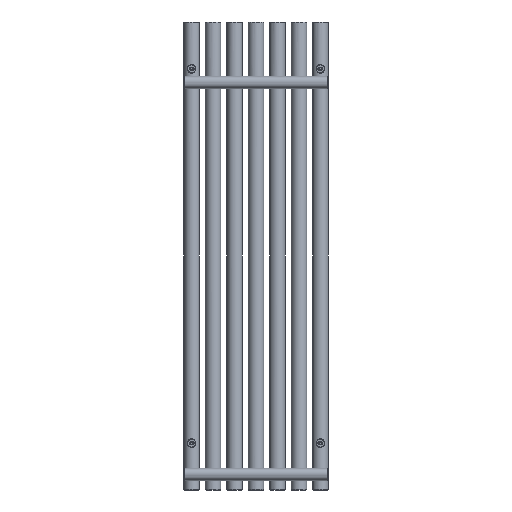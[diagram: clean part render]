
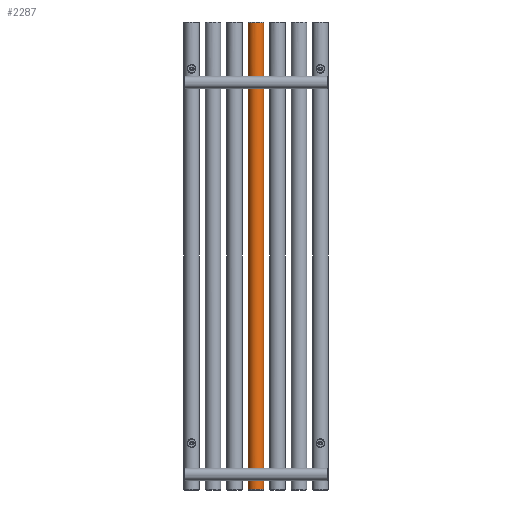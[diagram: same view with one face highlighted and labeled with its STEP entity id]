
A CAD part, front view. The second image highlights one B-rep face of the part: STEP entity #2287.
In plain terms, the highlighted cylindrical face has radius 20 mm (diameter 40 mm), a full revolution.
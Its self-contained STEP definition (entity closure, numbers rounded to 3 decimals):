
#181=FACE_BOUND('',#569,.T.);
#182=FACE_BOUND('',#570,.T.);
#216=LINE('',#4522,#292);
#292=VECTOR('',#2854,20.);
#368=CYLINDRICAL_SURFACE('',#2494,20.);
#405=FACE_OUTER_BOUND('',#568,.T.);
#568=EDGE_LOOP('',(#1619,#1620,#1621,#1622,#1623));
#569=EDGE_LOOP('',(#1624));
#570=EDGE_LOOP('',(#1625));
#754=B_SPLINE_CURVE_WITH_KNOTS('',3,(#4496,#4497,#4498,#4499,#4500,#4501,
#4502,#4503,#4504,#4505,#4506,#4507,#4508,#4509,#4510,#4511,#4512,#4513,
#4514,#4515,#4516),.UNSPECIFIED.,.T.,.F.,(4,1,1,1,1,1,1,1,1,1,1,1,1,1,1,
1,1,1,4),(-5.132,-4.765,-4.399,-4.154,
-3.91,-3.788,-3.666,-3.421,
-3.177,-2.933,-2.688,-2.199,
-1.955,-1.711,-1.466,-1.1,
-0.733,-0.367,0.),.UNSPECIFIED.);
#755=B_SPLINE_CURVE_WITH_KNOTS('',3,(#4526,#4527,#4528,#4529,#4530,#4531,
#4532,#4533,#4534,#4535,#4536,#4537,#4538,#4539,#4540,#4541,#4542,#4543,
#4544,#4545),.UNSPECIFIED.,.T.,.F.,(4,1,1,1,1,1,1,1,1,1,1,1,1,1,1,1,1,4),
(-5.132,-4.765,-4.399,-3.91,
-3.788,-3.666,-3.421,-3.177,
-2.933,-2.444,-2.199,-1.955,-1.711,
-1.466,-1.1,-0.733,-0.367,
0.),.UNSPECIFIED.);
#819=CIRCLE('',#2495,20.);
#820=CIRCLE('',#2496,20.);
#821=CIRCLE('',#2497,20.);
#1011=VERTEX_POINT('',#4494);
#1012=VERTEX_POINT('',#4518);
#1013=VERTEX_POINT('',#4519);
#1014=VERTEX_POINT('',#4521);
#1015=VERTEX_POINT('',#4525);
#1255=EDGE_CURVE('',#1011,#1011,#754,.T.);
#1256=EDGE_CURVE('',#1012,#1013,#819,.T.);
#1257=EDGE_CURVE('',#1012,#1014,#216,.T.);
#1258=EDGE_CURVE('',#1014,#1014,#820,.T.);
#1259=EDGE_CURVE('',#1013,#1012,#821,.T.);
#1260=EDGE_CURVE('',#1015,#1015,#755,.T.);
#1619=ORIENTED_EDGE('',*,*,#1256,.F.);
#1620=ORIENTED_EDGE('',*,*,#1257,.T.);
#1621=ORIENTED_EDGE('',*,*,#1258,.F.);
#1622=ORIENTED_EDGE('',*,*,#1257,.F.);
#1623=ORIENTED_EDGE('',*,*,#1259,.F.);
#1624=ORIENTED_EDGE('',*,*,#1260,.F.);
#1625=ORIENTED_EDGE('',*,*,#1255,.F.);
#2287=ADVANCED_FACE('',(#405,#181,#182),#368,.T.);
#2494=AXIS2_PLACEMENT_3D('',#4517,#2850,#2851);
#2495=AXIS2_PLACEMENT_3D('',#4520,#2852,#2853);
#2496=AXIS2_PLACEMENT_3D('',#4523,#2855,#2856);
#2497=AXIS2_PLACEMENT_3D('',#4524,#2857,#2858);
#2850=DIRECTION('center_axis',(0.,0.,1.));
#2851=DIRECTION('ref_axis',(-1.,0.,0.));
#2852=DIRECTION('center_axis',(0.,0.,1.));
#2853=DIRECTION('ref_axis',(-1.,0.,0.));
#2854=DIRECTION('',(0.,0.,-1.));
#2855=DIRECTION('center_axis',(0.,0.,-1.));
#2856=DIRECTION('ref_axis',(-1.,0.,0.));
#2857=DIRECTION('center_axis',(0.,0.,1.));
#2858=DIRECTION('ref_axis',(-1.,0.,0.));
#4494=CARTESIAN_POINT('',(-165.,-20.,50.1));
#4496=CARTESIAN_POINT('Ctrl Pts',(-165.,-20.,50.1));
#4497=CARTESIAN_POINT('Ctrl Pts',(-166.611,-20.,50.1));
#4498=CARTESIAN_POINT('Ctrl Pts',(-169.837,-19.598,49.587));
#4499=CARTESIAN_POINT('Ctrl Pts',(-173.411,-18.224,47.307));
#4500=CARTESIAN_POINT('Ctrl Pts',(-175.379,-17.114,44.115));
#4501=CARTESIAN_POINT('Ctrl Pts',(-175.993,-16.707,41.396));
#4502=CARTESIAN_POINT('Ctrl Pts',(-175.992,-16.708,39.163));
#4503=CARTESIAN_POINT('Ctrl Pts',(-175.666,-16.921,36.968));
#4504=CARTESIAN_POINT('Ctrl Pts',(-174.649,-17.552,34.429));
#4505=CARTESIAN_POINT('Ctrl Pts',(-172.534,-18.592,32.083));
#4506=CARTESIAN_POINT('Ctrl Pts',(-169.761,-19.505,30.58));
#4507=CARTESIAN_POINT('Ctrl Pts',(-165.581,-20.198,29.637));
#4508=CARTESIAN_POINT('Ctrl Pts',(-161.165,-19.824,30.09));
#4509=CARTESIAN_POINT('Ctrl Pts',(-157.466,-18.588,32.082));
#4510=CARTESIAN_POINT('Ctrl Pts',(-155.351,-17.556,34.43));
#4511=CARTESIAN_POINT('Ctrl Pts',(-153.927,-16.66,37.98));
#4512=CARTESIAN_POINT('Ctrl Pts',(-153.922,-16.66,42.599));
#4513=CARTESIAN_POINT('Ctrl Pts',(-156.137,-18.052,47.027));
#4514=CARTESIAN_POINT('Ctrl Pts',(-160.165,-19.6,49.585));
#4515=CARTESIAN_POINT('Ctrl Pts',(-163.389,-20.,50.1));
#4516=CARTESIAN_POINT('Ctrl Pts',(-165.,-20.,50.1));
#4517=CARTESIAN_POINT('Origin',(-165.,0.,0.));
#4518=CARTESIAN_POINT('',(-145.,0.,1198.));
#4519=CARTESIAN_POINT('',(-185.,0.,1198.));
#4520=CARTESIAN_POINT('Origin',(-165.,0.,1198.));
#4521=CARTESIAN_POINT('',(-145.,0.,2.));
#4522=CARTESIAN_POINT('',(-145.,0.,0.));
#4523=CARTESIAN_POINT('Origin',(-165.,0.,2.));
#4524=CARTESIAN_POINT('Origin',(-165.,0.,1198.));
#4525=CARTESIAN_POINT('',(-165.,-20.,1055.1));
#4526=CARTESIAN_POINT('Ctrl Pts',(-165.,-20.,1055.1));
#4527=CARTESIAN_POINT('Ctrl Pts',(-166.611,-20.,1055.1));
#4528=CARTESIAN_POINT('Ctrl Pts',(-169.831,-19.61,1054.581));
#4529=CARTESIAN_POINT('Ctrl Pts',(-174.316,-17.862,1051.749));
#4530=CARTESIAN_POINT('Ctrl Pts',(-176.002,-16.691,1047.521));
#4531=CARTESIAN_POINT('Ctrl Pts',(-175.992,-16.709,1044.164));
#4532=CARTESIAN_POINT('Ctrl Pts',(-175.668,-16.917,1041.97));
#4533=CARTESIAN_POINT('Ctrl Pts',(-174.649,-17.554,1039.431));
#4534=CARTESIAN_POINT('Ctrl Pts',(-172.536,-18.588,1037.082));
#4535=CARTESIAN_POINT('Ctrl Pts',(-168.836,-19.819,1035.088));
#4536=CARTESIAN_POINT('Ctrl Pts',(-164.419,-20.201,1034.641));
#4537=CARTESIAN_POINT('Ctrl Pts',(-160.24,-19.502,1035.58));
#4538=CARTESIAN_POINT('Ctrl Pts',(-157.467,-18.59,1037.084));
#4539=CARTESIAN_POINT('Ctrl Pts',(-155.351,-17.552,1039.428));
#4540=CARTESIAN_POINT('Ctrl Pts',(-153.927,-16.66,1042.981));
#4541=CARTESIAN_POINT('Ctrl Pts',(-153.921,-16.659,1047.599));
#4542=CARTESIAN_POINT('Ctrl Pts',(-156.137,-18.052,1052.027));
#4543=CARTESIAN_POINT('Ctrl Pts',(-160.165,-19.6,1054.585));
#4544=CARTESIAN_POINT('Ctrl Pts',(-163.389,-20.,1055.1));
#4545=CARTESIAN_POINT('Ctrl Pts',(-165.,-20.,1055.1));
